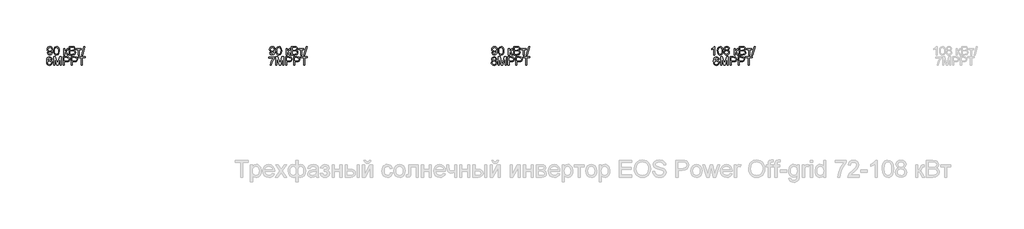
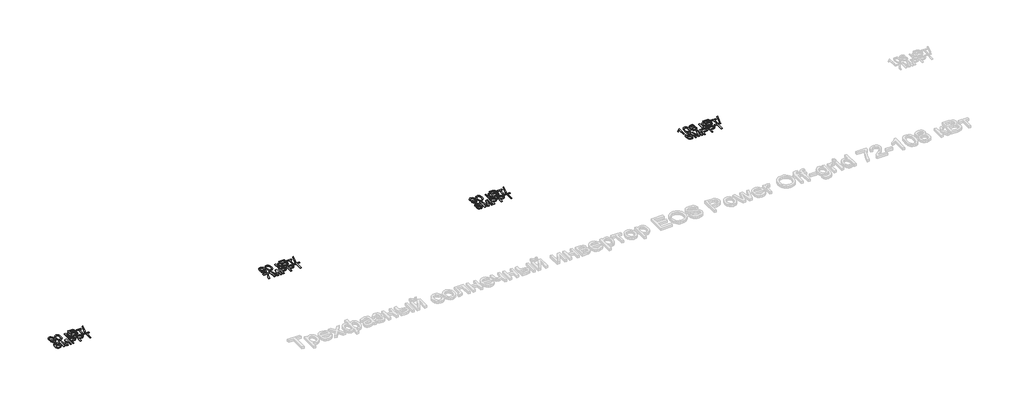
# One storey, part 18 of 26: 4 proxies.
"""IFC4 building model written with IfcOpenShell, lengths in millimetres."""

from ifc_helpers import new_model, si_unit, origin, origin_with_axes, place, context, project, spatial, polyline, outline, extrude, element, save

model = new_model("IFC4")

# Units and contexts
model_context = context("Model", 3, world=origin())
ifc_project = project(units=[si_unit("LENGTHUNIT", "METRE", prefix="MILLI")], contexts=[model_context])

# Site, building, storey
site = spatial("IfcSite", under=ifc_project)
building = spatial("IfcBuilding", under=site)
storey = spatial("IfcBuildingStorey", under=building, Name="Этаж 01", Elevation=0.0)

# Proxies
placement = place(None, origin())
element("IfcBuildingElementProxy", 1, Name="75 мм Arial", ObjectType="75 мм Arial", at=placement, inside=storey, context=model_context, shape_type="SweptSolid", body=[
    extrude(outline(polyline([(1822.7357766, -11396.0385039), (1832.1535557, -11394.8612815), (1836.3841986, -11403.8467992), (1844.4040261, -11406.6335053), (1852.0283804, -11404.8400806), (1857.1971225, -11400.0484176), (1860.2781342, -11391.8630432), (1861.6392976, -11380.936948), (1861.5841153, -11379.097538), (1854.0517314, -11386.2344487), (1843.7234444, -11388.9751696), (1835.1356991, -11387.3013065), (1827.9872921, -11382.2797173), (1823.1657387, -11374.5220057), (1821.5585542, -11364.6397756), (1823.2439136, -11354.4310502), (1828.2999918, -11346.4296168), (1835.8944557, -11341.2562763), (1845.1949724, -11339.5318294), (1858.6134682, -11343.4681668), (1867.8473062, -11354.6885676), (1871.0018943, -11375.7682059), (1867.8565033, -11398.641269), (1858.5031036, -11411.5999123), (1843.9625677, -11416.0512844), (1829.4864112, -11410.7997689), (1822.7357766, -11396.0385039)]), holes=[polyline([(1861.5841153, -11364.4190464), (1857.5190192, -11353.1250691), (1846.7216827, -11348.9496085), (1835.3909172, -11353.4469659), (1830.9763333, -11365.0996281), (1835.1517939, -11375.5382797), (1846.4641653, -11379.5573905), (1857.3258812, -11375.5382797), (1861.5841153, -11364.4190464)])]), origin_with_axes(), (0.0, 0.0, 1.0), 5.0),
    extrude(outline(polyline([(1879.242451, -11377.809951), (1882.0107631, -11356.1325045), (1890.2329256, -11343.6337137), (1903.9641211, -11339.5318294), (1914.9637928, -11341.9598506), (1922.560556, -11348.9588055), (1926.9751399, -11360.10563), (1928.6857912, -11377.809951), (1925.9450703, -11399.3954271), (1917.7504989, -11411.921809), (1903.9641211, -11416.0512844), (1894.17846, -11414.2578597), (1886.7472437, -11408.8775855), (1881.1186492, -11396.1350729), (1879.242451, -11377.809951)]), holes=[polyline([(1888.6602301, -11377.7915569), (1889.7638761, -11392.605705), (1893.0748141, -11401.1796548), (1903.9641211, -11406.6335053), (1914.8534282, -11401.1612607), (1918.1643661, -11392.5827124), (1919.2680121, -11377.7915569), (1915.000581, -11354.6701735), (1903.8537565, -11348.9496085), (1893.2219669, -11353.9895918), (1889.8006643, -11363.1682476), (1888.6602301, -11377.7915569)])]), origin_with_axes(), (0.0, 0.0, 1.0), 5.0),
    extrude(outline(polyline([(1968.7113523, -11359.54461), (1978.1291313, -11359.54461), (1978.1291313, -11383.0890576), (1984.4383076, -11381.3968005), (1989.6070496, -11371.537563), (1993.9020719, -11363.0302919), (1997.6912564, -11360.2619798), (2004.5798468, -11359.54461), (2006.3824686, -11359.54461), (2006.3824686, -11369.0175713), (2003.8440828, -11368.962389), (1999.2455579, -11369.9556704), (1996.0081963, -11376.154482), (1992.2098147, -11382.8591314), (1986.8847228, -11386.1424782), (1998.6569467, -11397.528426), (2008.7369133, -11414.874062), (1998.0315473, -11414.874062), (1988.1539157, -11397.896308), (1983.1875088, -11390.713412), (1978.1291313, -11388.9751696), (1978.1291313, -11414.874062), (1968.7113523, -11414.874062), (1968.7113523, -11359.54461)])), origin_with_axes(), (0.0, 0.0, 1.0), 5.0),
    extrude(outline(polyline([(2015.8002476, -11414.874062), (2015.8002476, -11339.5318294), (2044.5502256, -11339.5318294), (2058.6309089, -11341.7483184), (2066.945042, -11348.5633324), (2069.9524773, -11358.2018407), (2067.4232886, -11367.0034174), (2059.7805402, -11373.6712786), (2069.0603635, -11380.6978247), (2072.3069221, -11392.4148662), (2070.0904331, -11402.5408181), (2064.5997943, -11409.7513052), (2056.4052229, -11413.577278), (2044.3294964, -11414.874062), (2015.8002476, -11414.874062)]), holes=[polyline([(2025.2180267, -11370.1396114), (2042.41651, -11370.1396114), (2052.4596885, -11369.330271), (2058.5021502, -11365.8445891), (2060.5346983, -11359.7101569), (2058.640106, -11353.5665275), (2053.2138466, -11349.9336928), (2041.1105289, -11348.9496085), (2025.2180267, -11348.9496085), (2025.2180267, -11370.1396114)]), polyline([(2025.2180267, -11405.456283), (2044.5318315, -11405.456283), (2051.5215894, -11405.088401), (2057.4352925, -11403.0374588), (2061.3532357, -11398.8528011), (2062.889143, -11392.5068367), (2061.0865213, -11385.185985), (2055.2463946, -11380.8173863), (2043.6121265, -11379.5573905), (2025.2180267, -11379.5573905), (2025.2180267, -11405.456283)])]), origin_with_axes(), (0.0, 0.0, 1.0), 5.0),
    extrude(outline(polyline([(2079.3702564, -11359.54461), (2124.104707, -11359.54461), (2124.104707, -11368.962389), (2106.4463713, -11368.962389), (2106.4463713, -11414.874062), (2097.0285922, -11414.874062), (2097.0285922, -11368.962389), (2079.3702564, -11368.962389), (2079.3702564, -11359.54461)])), origin_with_axes(), (0.0, 0.0, 1.0), 5.0),
    extrude(outline(polyline([(2125.2819294, -11414.874062), (2146.4719323, -11339.5318294), (2154.9700064, -11339.5318294), (2133.7800035, -11414.874062), (2125.2819294, -11414.874062)])), origin_with_axes(), (0.0, 0.0, 1.0), 5.0),
    extrude(outline(polyline([(1865.7043936, -11451.0257233), (1856.2866145, -11452.2029457), (1852.7181592, -11444.3486651), (1843.281986, -11440.4307219), (1834.7839119, -11442.7115902), (1828.3551741, -11451.2740437), (1825.6788325, -11468.0586597), (1833.9837686, -11460.54467), (1844.2752674, -11458.0890576), (1852.9756766, -11459.7675193), (1860.2781342, -11464.8029041), (1865.2307455, -11472.4962363), (1866.881616, -11482.1485401), (1863.7730131, -11495.1439716), (1855.2197568, -11504.3410215), (1842.8773158, -11507.5323978), (1832.1926431, -11505.4170763), (1823.6830727, -11499.0711119), (1818.1165583, -11487.8691052), (1816.2610535, -11471.1856567), (1818.3211926, -11452.4282734), (1824.5016102, -11439.6029874), (1832.9399034, -11433.160454), (1843.8705972, -11431.0129428), (1858.7514239, -11436.3288376), (1865.7043936, -11451.0257233)]), holes=[polyline([(1825.6788325, -11482.0013873), (1827.8585334, -11490.1591706), (1833.6526748, -11496.0820707), (1842.1415518, -11498.1146187), (1853.242391, -11493.9023699), (1857.4638369, -11482.4612398), (1853.2975733, -11471.5075534), (1841.7552757, -11467.5068367), (1830.3601309, -11471.5075534), (1825.6788325, -11482.0013873)])]), origin_with_axes(), (0.0, 0.0, 1.0), 5.0),
    extrude(outline(polyline([(1878.6538398, -11506.3551754), (1878.6538398, -11431.0129428), (1894.8590417, -11431.0129428), (1910.2732973, -11484.1167088), (1913.3819002, -11495.208351), (1916.7480204, -11483.1970038), (1931.9047586, -11431.0129428), (1948.1099605, -11431.0129428), (1948.1099605, -11506.3551754), (1938.6921815, -11506.3551754), (1938.6921815, -11440.4307219), (1919.7646528, -11506.3551754), (1906.9991476, -11506.3551754), (1888.0716189, -11440.4307219), (1888.0716189, -11506.3551754), (1878.6538398, -11506.3551754)])), origin_with_axes(), (0.0, 0.0, 1.0), 5.0),
    extrude(outline(polyline([(1964.5910739, -11506.3551754), (1964.5910739, -11431.0129428), (1992.5133174, -11431.0129428), (2003.7705064, -11431.7303127), (2012.921571, -11435.2527828), (2018.8536682, -11442.5368463), (2021.0977484, -11452.809951), (2019.5825344, -11461.6897027), (2015.0368925, -11469.0887293), (2006.5365192, -11474.0827274), (1993.1571108, -11475.7473934), (1974.008853, -11475.7473934), (1974.008853, -11506.3551754), (1964.5910739, -11506.3551754)]), holes=[polyline([(1974.008853, -11466.3296143), (1993.7089338, -11466.3296143), (2007.5780851, -11462.8715236), (2011.6799693, -11453.1410448), (2009.2611452, -11445.3419465), (2002.9059837, -11441.0745154), (1993.4882046, -11440.4307219), (1974.008853, -11440.4307219), (1974.008853, -11466.3296143)])]), origin_with_axes(), (0.0, 0.0, 1.0), 5.0),
    extrude(outline(polyline([(2034.0471946, -11506.3551754), (2034.0471946, -11431.0129428), (2061.969438, -11431.0129428), (2073.2266271, -11431.7303127), (2082.3776917, -11435.2527828), (2088.3097889, -11442.5368463), (2090.5538691, -11452.809951), (2089.0386551, -11461.6897027), (2084.4930132, -11469.0887293), (2075.9926398, -11474.0827274), (2062.6132315, -11475.7473934), (2043.4649737, -11475.7473934), (2043.4649737, -11506.3551754), (2034.0471946, -11506.3551754)]), holes=[polyline([(2043.4649737, -11466.3296143), (2063.1650545, -11466.3296143), (2077.0342057, -11462.8715236), (2081.13609, -11453.1410448), (2078.7172659, -11445.3419465), (2072.3621044, -11441.0745154), (2062.9443253, -11440.4307219), (2043.4649737, -11440.4307219), (2043.4649737, -11466.3296143)])]), origin_with_axes(), (0.0, 0.0, 1.0), 5.0),
    extrude(outline(polyline([(2122.3388735, -11506.3551754), (2122.3388735, -11440.4307219), (2097.6172034, -11440.4307219), (2097.6172034, -11431.0129428), (2156.4783226, -11431.0129428), (2156.4783226, -11440.4307219), (2131.7566525, -11440.4307219), (2131.7566525, -11506.3551754), (2122.3388735, -11506.3551754)])), origin_with_axes(), (0.0, 0.0, 1.0), 5.0),
])
element("IfcBuildingElementProxy", 2, Name="75 мм Arial", ObjectType="75 мм Arial", at=placement, inside=storey, context=model_context, shape_type="SweptSolid", body=[
    extrude(outline(polyline([(3782.7357766, -11396.0385039), (3792.1535557, -11394.8612815), (3796.3841986, -11403.8467992), (3804.4040261, -11406.6335053), (3812.0283804, -11404.8400806), (3817.1971225, -11400.0484176), (3820.2781342, -11391.8630432), (3821.6392976, -11380.936948), (3821.5841153, -11379.097538), (3814.0517314, -11386.2344487), (3803.7234444, -11388.9751696), (3795.1356991, -11387.3013065), (3787.9872921, -11382.2797173), (3783.1657387, -11374.5220057), (3781.5585542, -11364.6397756), (3783.2439136, -11354.4310502), (3788.2999918, -11346.4296168), (3795.8944557, -11341.2562763), (3805.1949724, -11339.5318294), (3818.6134682, -11343.4681668), (3827.8473062, -11354.6885676), (3831.0018943, -11375.7682059), (3827.8565033, -11398.641269), (3818.5031036, -11411.5999123), (3803.9625677, -11416.0512844), (3789.4864112, -11410.7997689), (3782.7357766, -11396.0385039)]), holes=[polyline([(3821.5841153, -11364.4190464), (3817.5190192, -11353.1250691), (3806.7216827, -11348.9496085), (3795.3909172, -11353.4469659), (3790.9763333, -11365.0996281), (3795.1517939, -11375.5382797), (3806.4641653, -11379.5573905), (3817.3258812, -11375.5382797), (3821.5841153, -11364.4190464)])]), origin_with_axes(), (0.0, 0.0, 1.0), 5.0),
    extrude(outline(polyline([(3839.242451, -11377.809951), (3842.0107631, -11356.1325045), (3850.2329256, -11343.6337137), (3863.9641211, -11339.5318294), (3874.9637928, -11341.9598506), (3882.560556, -11348.9588055), (3886.9751399, -11360.10563), (3888.6857912, -11377.809951), (3885.9450703, -11399.3954271), (3877.7504989, -11411.921809), (3863.9641211, -11416.0512844), (3854.17846, -11414.2578597), (3846.7472437, -11408.8775855), (3841.1186492, -11396.1350729), (3839.242451, -11377.809951)]), holes=[polyline([(3848.6602301, -11377.7915569), (3849.7638761, -11392.605705), (3853.0748141, -11401.1796548), (3863.9641211, -11406.6335053), (3874.8534282, -11401.1612607), (3878.1643661, -11392.5827124), (3879.2680121, -11377.7915569), (3875.000581, -11354.6701735), (3863.8537565, -11348.9496085), (3853.2219669, -11353.9895918), (3849.8006643, -11363.1682476), (3848.6602301, -11377.7915569)])]), origin_with_axes(), (0.0, 0.0, 1.0), 5.0),
    extrude(outline(polyline([(3928.7113523, -11359.54461), (3938.1291313, -11359.54461), (3938.1291313, -11383.0890576), (3944.4383076, -11381.3968005), (3949.6070496, -11371.537563), (3953.9020719, -11363.0302919), (3957.6912564, -11360.2619798), (3964.5798468, -11359.54461), (3966.3824686, -11359.54461), (3966.3824686, -11369.0175713), (3963.8440828, -11368.962389), (3959.2455579, -11369.9556704), (3956.0081963, -11376.154482), (3952.2098147, -11382.8591314), (3946.8847228, -11386.1424782), (3958.6569467, -11397.528426), (3968.7369133, -11414.874062), (3958.0315473, -11414.874062), (3948.1539157, -11397.896308), (3943.1875088, -11390.713412), (3938.1291313, -11388.9751696), (3938.1291313, -11414.874062), (3928.7113523, -11414.874062), (3928.7113523, -11359.54461)])), origin_with_axes(), (0.0, 0.0, 1.0), 5.0),
    extrude(outline(polyline([(3975.8002476, -11414.874062), (3975.8002476, -11339.5318294), (4004.5502256, -11339.5318294), (4018.6309089, -11341.7483184), (4026.945042, -11348.5633324), (4029.9524773, -11358.2018407), (4027.4232886, -11367.0034174), (4019.7805402, -11373.6712786), (4029.0603635, -11380.6978247), (4032.3069221, -11392.4148662), (4030.0904331, -11402.5408181), (4024.5997943, -11409.7513052), (4016.4052229, -11413.577278), (4004.3294964, -11414.874062), (3975.8002476, -11414.874062)]), holes=[polyline([(3985.2180267, -11370.1396114), (4002.41651, -11370.1396114), (4012.4596885, -11369.330271), (4018.5021502, -11365.8445891), (4020.5346983, -11359.7101569), (4018.640106, -11353.5665275), (4013.2138466, -11349.9336928), (4001.1105289, -11348.9496085), (3985.2180267, -11348.9496085), (3985.2180267, -11370.1396114)]), polyline([(3985.2180267, -11405.456283), (4004.5318315, -11405.456283), (4011.5215894, -11405.088401), (4017.4352925, -11403.0374588), (4021.3532357, -11398.8528011), (4022.889143, -11392.5068367), (4021.0865213, -11385.185985), (4015.2463946, -11380.8173863), (4003.6121265, -11379.5573905), (3985.2180267, -11379.5573905), (3985.2180267, -11405.456283)])]), origin_with_axes(), (0.0, 0.0, 1.0), 5.0),
    extrude(outline(polyline([(4039.3702564, -11359.54461), (4084.104707, -11359.54461), (4084.104707, -11368.962389), (4066.4463713, -11368.962389), (4066.4463713, -11414.874062), (4057.0285922, -11414.874062), (4057.0285922, -11368.962389), (4039.3702564, -11368.962389), (4039.3702564, -11359.54461)])), origin_with_axes(), (0.0, 0.0, 1.0), 5.0),
    extrude(outline(polyline([(4085.2819294, -11414.874062), (4106.4719323, -11339.5318294), (4114.9700064, -11339.5318294), (4093.7800035, -11414.874062), (4085.2819294, -11414.874062)])), origin_with_axes(), (0.0, 0.0, 1.0), 5.0),
    extrude(outline(polyline([(3777.4382759, -11441.6079443), (3777.4382759, -11432.1901652), (3826.881616, -11432.1901652), (3826.881616, -11439.8053225), (3812.8561149, -11460.0664234), (3802.1231577, -11485.8825424), (3798.6282788, -11506.3551754), (3789.2104997, -11506.3551754), (3792.953699, -11485.1099902), (3803.2268037, -11461.096493), (3817.4638369, -11441.6079443), (3777.4382759, -11441.6079443)])), origin_with_axes(), (0.0, 0.0, 1.0), 5.0),
    extrude(outline(polyline([(3838.6538398, -11506.3551754), (3838.6538398, -11431.0129428), (3854.8590417, -11431.0129428), (3870.2732973, -11484.1167088), (3873.3819002, -11495.208351), (3876.7480204, -11483.1970038), (3891.9047586, -11431.0129428), (3908.1099605, -11431.0129428), (3908.1099605, -11506.3551754), (3898.6921815, -11506.3551754), (3898.6921815, -11440.4307219), (3879.7646528, -11506.3551754), (3866.9991476, -11506.3551754), (3848.0716189, -11440.4307219), (3848.0716189, -11506.3551754), (3838.6538398, -11506.3551754)])), origin_with_axes(), (0.0, 0.0, 1.0), 5.0),
    extrude(outline(polyline([(3924.5910739, -11506.3551754), (3924.5910739, -11431.0129428), (3952.5133174, -11431.0129428), (3963.7705064, -11431.7303127), (3972.921571, -11435.2527828), (3978.8536682, -11442.5368463), (3981.0977484, -11452.809951), (3979.5825344, -11461.6897027), (3975.0368925, -11469.0887293), (3966.5365192, -11474.0827274), (3953.1571108, -11475.7473934), (3934.008853, -11475.7473934), (3934.008853, -11506.3551754), (3924.5910739, -11506.3551754)]), holes=[polyline([(3934.008853, -11466.3296143), (3953.7089338, -11466.3296143), (3967.5780851, -11462.8715236), (3971.6799693, -11453.1410448), (3969.2611452, -11445.3419465), (3962.9059837, -11441.0745154), (3953.4882046, -11440.4307219), (3934.008853, -11440.4307219), (3934.008853, -11466.3296143)])]), origin_with_axes(), (0.0, 0.0, 1.0), 5.0),
    extrude(outline(polyline([(3994.0471946, -11506.3551754), (3994.0471946, -11431.0129428), (4021.969438, -11431.0129428), (4033.2266271, -11431.7303127), (4042.3776917, -11435.2527828), (4048.3097889, -11442.5368463), (4050.5538691, -11452.809951), (4049.0386551, -11461.6897027), (4044.4930132, -11469.0887293), (4035.9926398, -11474.0827274), (4022.6132315, -11475.7473934), (4003.4649737, -11475.7473934), (4003.4649737, -11506.3551754), (3994.0471946, -11506.3551754)]), holes=[polyline([(4003.4649737, -11466.3296143), (4023.1650545, -11466.3296143), (4037.0342057, -11462.8715236), (4041.13609, -11453.1410448), (4038.7172659, -11445.3419465), (4032.3621044, -11441.0745154), (4022.9443253, -11440.4307219), (4003.4649737, -11440.4307219), (4003.4649737, -11466.3296143)])]), origin_with_axes(), (0.0, 0.0, 1.0), 5.0),
    extrude(outline(polyline([(4082.3388735, -11506.3551754), (4082.3388735, -11440.4307219), (4057.6172034, -11440.4307219), (4057.6172034, -11431.0129428), (4116.4783226, -11431.0129428), (4116.4783226, -11440.4307219), (4091.7566525, -11440.4307219), (4091.7566525, -11506.3551754), (4082.3388735, -11506.3551754)])), origin_with_axes(), (0.0, 0.0, 1.0), 5.0),
])
element("IfcBuildingElementProxy", 3, Name="75 мм Arial", ObjectType="75 мм Arial", at=placement, inside=storey, context=model_context, shape_type="SweptSolid", body=[
    extrude(outline(polyline([(5742.7357766, -11396.0385039), (5752.1535557, -11394.8612815), (5756.3841986, -11403.8467992), (5764.4040261, -11406.6335053), (5772.0283804, -11404.8400806), (5777.1971225, -11400.0484176), (5780.2781342, -11391.8630432), (5781.6392976, -11380.936948), (5781.5841153, -11379.097538), (5774.0517314, -11386.2344487), (5763.7234444, -11388.9751696), (5755.1356991, -11387.3013065), (5747.9872921, -11382.2797173), (5743.1657387, -11374.5220057), (5741.5585542, -11364.6397756), (5743.2439136, -11354.4310502), (5748.2999918, -11346.4296168), (5755.8944557, -11341.2562763), (5765.1949724, -11339.5318294), (5778.6134682, -11343.4681668), (5787.8473062, -11354.6885676), (5791.0018943, -11375.7682059), (5787.8565033, -11398.641269), (5778.5031036, -11411.5999123), (5763.9625677, -11416.0512844), (5749.4864112, -11410.7997689), (5742.7357766, -11396.0385039)]), holes=[polyline([(5781.5841153, -11364.4190464), (5777.5190192, -11353.1250691), (5766.7216827, -11348.9496085), (5755.3909172, -11353.4469659), (5750.9763333, -11365.0996281), (5755.1517939, -11375.5382797), (5766.4641653, -11379.5573905), (5777.3258812, -11375.5382797), (5781.5841153, -11364.4190464)])]), origin_with_axes(), (0.0, 0.0, 1.0), 5.0),
    extrude(outline(polyline([(5799.242451, -11377.809951), (5802.0107631, -11356.1325045), (5810.2329256, -11343.6337137), (5823.9641211, -11339.5318294), (5834.9637928, -11341.9598506), (5842.560556, -11348.9588055), (5846.9751399, -11360.10563), (5848.6857912, -11377.809951), (5845.9450703, -11399.3954271), (5837.7504989, -11411.921809), (5823.9641211, -11416.0512844), (5814.17846, -11414.2578597), (5806.7472437, -11408.8775855), (5801.1186492, -11396.1350729), (5799.242451, -11377.809951)]), holes=[polyline([(5808.6602301, -11377.7915569), (5809.7638761, -11392.605705), (5813.0748141, -11401.1796548), (5823.9641211, -11406.6335053), (5834.8534282, -11401.1612607), (5838.1643661, -11392.5827124), (5839.2680121, -11377.7915569), (5835.000581, -11354.6701735), (5823.8537565, -11348.9496085), (5813.2219669, -11353.9895918), (5809.8006643, -11363.1682476), (5808.6602301, -11377.7915569)])]), origin_with_axes(), (0.0, 0.0, 1.0), 5.0),
    extrude(outline(polyline([(5888.7113523, -11359.54461), (5898.1291313, -11359.54461), (5898.1291313, -11383.0890576), (5904.4383076, -11381.3968005), (5909.6070496, -11371.537563), (5913.9020719, -11363.0302919), (5917.6912564, -11360.2619798), (5924.5798468, -11359.54461), (5926.3824686, -11359.54461), (5926.3824686, -11369.0175713), (5923.8440828, -11368.962389), (5919.2455579, -11369.9556704), (5916.0081963, -11376.154482), (5912.2098147, -11382.8591314), (5906.8847228, -11386.1424782), (5918.6569467, -11397.528426), (5928.7369133, -11414.874062), (5918.0315473, -11414.874062), (5908.1539157, -11397.896308), (5903.1875088, -11390.713412), (5898.1291313, -11388.9751696), (5898.1291313, -11414.874062), (5888.7113523, -11414.874062), (5888.7113523, -11359.54461)])), origin_with_axes(), (0.0, 0.0, 1.0), 5.0),
    extrude(outline(polyline([(5935.8002476, -11414.874062), (5935.8002476, -11339.5318294), (5964.5502256, -11339.5318294), (5978.6309089, -11341.7483184), (5986.945042, -11348.5633324), (5989.9524773, -11358.2018407), (5987.4232886, -11367.0034174), (5979.7805402, -11373.6712786), (5989.0603635, -11380.6978247), (5992.3069221, -11392.4148662), (5990.0904331, -11402.5408181), (5984.5997943, -11409.7513052), (5976.4052229, -11413.577278), (5964.3294964, -11414.874062), (5935.8002476, -11414.874062)]), holes=[polyline([(5945.2180267, -11370.1396114), (5962.41651, -11370.1396114), (5972.4596885, -11369.330271), (5978.5021502, -11365.8445891), (5980.5346983, -11359.7101569), (5978.640106, -11353.5665275), (5973.2138466, -11349.9336928), (5961.1105289, -11348.9496085), (5945.2180267, -11348.9496085), (5945.2180267, -11370.1396114)]), polyline([(5945.2180267, -11405.456283), (5964.5318315, -11405.456283), (5971.5215894, -11405.088401), (5977.4352925, -11403.0374588), (5981.3532357, -11398.8528011), (5982.889143, -11392.5068367), (5981.0865213, -11385.185985), (5975.2463946, -11380.8173863), (5963.6121265, -11379.5573905), (5945.2180267, -11379.5573905), (5945.2180267, -11405.456283)])]), origin_with_axes(), (0.0, 0.0, 1.0), 5.0),
    extrude(outline(polyline([(5999.3702564, -11359.54461), (6044.104707, -11359.54461), (6044.104707, -11368.962389), (6026.4463713, -11368.962389), (6026.4463713, -11414.874062), (6017.0285922, -11414.874062), (6017.0285922, -11368.962389), (5999.3702564, -11368.962389), (5999.3702564, -11359.54461)])), origin_with_axes(), (0.0, 0.0, 1.0), 5.0),
    extrude(outline(polyline([(6045.2819294, -11414.874062), (6066.4719323, -11339.5318294), (6074.9700064, -11339.5318294), (6053.7800035, -11414.874062), (6045.2819294, -11414.874062)])), origin_with_axes(), (0.0, 0.0, 1.0), 5.0),
    extrude(outline(polyline([(5751.1602743, -11464.8580864), (5742.5794267, -11459.0087626), (5739.7927206, -11449.9036833), (5741.3102338, -11442.5414448), (5745.8627735, -11436.4575963), (5752.9399034, -11432.3741062), (5762.0311872, -11431.0129428), (5771.1776533, -11432.4062959), (5778.3467537, -11436.586355), (5782.9820669, -11442.7667725), (5784.5271712, -11450.1612007), (5781.7772533, -11459.0363538), (5773.4355291, -11464.8580864), (5783.4511164, -11472.2433174), (5786.881616, -11484.4294085), (5785.1801618, -11493.4333203), (5780.0757991, -11500.8737337), (5772.1939273, -11505.8677318), (5762.1599459, -11507.5323978), (5752.1259645, -11505.860834), (5744.2440928, -11500.8461425), (5739.1397301, -11493.334452), (5737.4382759, -11484.1718911), (5741.0067312, -11471.7006915), (5751.1602743, -11464.8580864)]), holes=[polyline([(5749.2104997, -11450.1795948), (5752.5490288, -11457.5740229), (5762.2703105, -11460.4435024), (5771.7984542, -11457.592417), (5775.1093922, -11450.602659), (5771.6880896, -11443.3645808), (5762.1599459, -11440.4307219), (5752.6042111, -11443.3002014), (5749.2104997, -11450.1795948)]), polyline([(5746.8560549, -11483.8407973), (5748.4287505, -11490.9317228), (5753.9929656, -11496.2384205), (5762.2335223, -11498.1146187), (5773.4539232, -11494.1690843), (5777.4638369, -11484.1351029), (5773.3251645, -11473.9079834), (5761.9208226, -11469.8612815), (5750.8383775, -11473.8528011), (5746.8560549, -11483.8407973)])]), origin_with_axes(), (0.0, 0.0, 1.0), 5.0),
    extrude(outline(polyline([(5798.6538398, -11506.3551754), (5798.6538398, -11431.0129428), (5814.8590417, -11431.0129428), (5830.2732973, -11484.1167088), (5833.3819002, -11495.208351), (5836.7480204, -11483.1970038), (5851.9047586, -11431.0129428), (5868.1099605, -11431.0129428), (5868.1099605, -11506.3551754), (5858.6921815, -11506.3551754), (5858.6921815, -11440.4307219), (5839.7646528, -11506.3551754), (5826.9991476, -11506.3551754), (5808.0716189, -11440.4307219), (5808.0716189, -11506.3551754), (5798.6538398, -11506.3551754)])), origin_with_axes(), (0.0, 0.0, 1.0), 5.0),
    extrude(outline(polyline([(5884.5910739, -11506.3551754), (5884.5910739, -11431.0129428), (5912.5133174, -11431.0129428), (5923.7705064, -11431.7303127), (5932.921571, -11435.2527828), (5938.8536682, -11442.5368463), (5941.0977484, -11452.809951), (5939.5825344, -11461.6897027), (5935.0368925, -11469.0887293), (5926.5365192, -11474.0827274), (5913.1571108, -11475.7473934), (5894.008853, -11475.7473934), (5894.008853, -11506.3551754), (5884.5910739, -11506.3551754)]), holes=[polyline([(5894.008853, -11466.3296143), (5913.7089338, -11466.3296143), (5927.5780851, -11462.8715236), (5931.6799693, -11453.1410448), (5929.2611452, -11445.3419465), (5922.9059837, -11441.0745154), (5913.4882046, -11440.4307219), (5894.008853, -11440.4307219), (5894.008853, -11466.3296143)])]), origin_with_axes(), (0.0, 0.0, 1.0), 5.0),
    extrude(outline(polyline([(5954.0471946, -11506.3551754), (5954.0471946, -11431.0129428), (5981.969438, -11431.0129428), (5993.2266271, -11431.7303127), (6002.3776917, -11435.2527828), (6008.3097889, -11442.5368463), (6010.5538691, -11452.809951), (6009.0386551, -11461.6897027), (6004.4930132, -11469.0887293), (5995.9926398, -11474.0827274), (5982.6132315, -11475.7473934), (5963.4649737, -11475.7473934), (5963.4649737, -11506.3551754), (5954.0471946, -11506.3551754)]), holes=[polyline([(5963.4649737, -11466.3296143), (5983.1650545, -11466.3296143), (5997.0342057, -11462.8715236), (6001.13609, -11453.1410448), (5998.7172659, -11445.3419465), (5992.3621044, -11441.0745154), (5982.9443253, -11440.4307219), (5963.4649737, -11440.4307219), (5963.4649737, -11466.3296143)])]), origin_with_axes(), (0.0, 0.0, 1.0), 5.0),
    extrude(outline(polyline([(6042.3388735, -11506.3551754), (6042.3388735, -11440.4307219), (6017.6172034, -11440.4307219), (6017.6172034, -11431.0129428), (6076.4783226, -11431.0129428), (6076.4783226, -11440.4307219), (6051.7566525, -11440.4307219), (6051.7566525, -11506.3551754), (6042.3388735, -11506.3551754)])), origin_with_axes(), (0.0, 0.0, 1.0), 5.0),
])
element("IfcBuildingElementProxy", 4, Name="75 мм Arial", ObjectType="75 мм Arial", at=placement, inside=storey, context=model_context, shape_type="SweptSolid", body=[
    extrude(outline(polyline([(7708.0332773, -11414.874062), (7698.6154982, -11414.874062), (7698.6154982, -11356.1600956), (7689.6943599, -11362.5152571), (7679.7799401, -11367.2701319), (7679.7799401, -11358.3673876), (7693.584712, -11349.5566138), (7701.9632244, -11339.5318294), (7708.0332773, -11339.5318294), (7708.0332773, -11414.874062)])), origin_with_axes(), (0.0, 0.0, 1.0), 5.0),
    extrude(outline(polyline([(7730.4005026, -11377.809951), (7733.1688146, -11356.1325045), (7741.3909772, -11343.6337137), (7755.1221727, -11339.5318294), (7766.1218443, -11341.9598506), (7773.7186076, -11348.9588055), (7778.1331915, -11360.10563), (7779.8438428, -11377.809951), (7777.1031219, -11399.3954271), (7768.9085505, -11411.921809), (7755.1221727, -11416.0512844), (7745.3365116, -11414.2578597), (7737.9052953, -11408.8775855), (7732.2767008, -11396.1350729), (7730.4005026, -11377.809951)]), holes=[polyline([(7739.8182817, -11377.7915569), (7740.9219277, -11392.605705), (7744.2328656, -11401.1796548), (7755.1221727, -11406.6335053), (7766.0114798, -11401.1612607), (7769.3224177, -11392.5827124), (7770.4260637, -11377.7915569), (7766.1586325, -11354.6701735), (7755.0118081, -11348.9496085), (7744.3800184, -11353.9895918), (7740.9587159, -11363.1682476), (7739.8182817, -11377.7915569)])]), origin_with_axes(), (0.0, 0.0, 1.0), 5.0),
    extrude(outline(polyline([(7801.8063979, -11373.376973), (7793.2255503, -11367.5276493), (7790.4388442, -11358.4225699), (7791.9563575, -11351.0603314), (7796.5088972, -11344.9764829), (7803.586027, -11340.8929928), (7812.6773108, -11339.5318294), (7821.8237769, -11340.9251825), (7828.9928773, -11345.1052416), (7833.6281905, -11351.2856592), (7835.1732948, -11358.6800873), (7832.4233769, -11367.5552404), (7824.0816527, -11373.376973), (7834.09724, -11380.762204), (7837.5277396, -11392.9482951), (7835.8262854, -11401.952207), (7830.7219227, -11409.3926203), (7822.840051, -11414.3866184), (7812.8060695, -11416.0512844), (7802.7720881, -11414.3797206), (7794.8902164, -11409.3650292), (7789.7858537, -11401.8533387), (7788.0843995, -11392.6907777), (7791.6528548, -11380.2195781), (7801.8063979, -11373.376973)]), holes=[polyline([(7799.8566233, -11358.6984814), (7803.1951524, -11366.0929095), (7812.9164341, -11368.962389), (7822.4445778, -11366.1113036), (7825.7555158, -11359.1215457), (7822.3342132, -11351.8834674), (7812.8060695, -11348.9496085), (7803.2503347, -11351.8190881), (7799.8566233, -11358.6984814)]), polyline([(7797.5021785, -11392.3596839), (7799.0748741, -11399.4506094), (7804.6390892, -11404.7573072), (7812.8796459, -11406.6335053), (7824.1000468, -11402.6879709), (7828.1099605, -11392.6539895), (7823.9712881, -11382.4268701), (7812.5669462, -11378.3801681), (7801.4845011, -11382.3716878), (7797.5021785, -11392.3596839)])]), origin_with_axes(), (0.0, 0.0, 1.0), 5.0),
    extrude(outline(polyline([(7877.5533007, -11359.54461), (7886.9710798, -11359.54461), (7886.9710798, -11383.0890576), (7893.280256, -11381.3968005), (7898.448998, -11371.537563), (7902.7440203, -11363.0302919), (7906.5332049, -11360.2619798), (7913.4217952, -11359.54461), (7915.224417, -11359.54461), (7915.224417, -11369.0175713), (7912.6860312, -11368.962389), (7908.0875063, -11369.9556704), (7904.8501447, -11376.154482), (7901.0517631, -11382.8591314), (7895.7266713, -11386.1424782), (7907.4988951, -11397.528426), (7917.5788618, -11414.874062), (7906.8734957, -11414.874062), (7896.9958641, -11397.896308), (7892.0294572, -11390.713412), (7886.9710798, -11388.9751696), (7886.9710798, -11414.874062), (7877.5533007, -11414.874062), (7877.5533007, -11359.54461)])), origin_with_axes(), (0.0, 0.0, 1.0), 5.0),
    extrude(outline(polyline([(7924.6421961, -11414.874062), (7924.6421961, -11339.5318294), (7953.392174, -11339.5318294), (7967.4728574, -11341.7483184), (7975.7869905, -11348.5633324), (7978.7944258, -11358.2018407), (7976.265237, -11367.0034174), (7968.6224886, -11373.6712786), (7977.9023119, -11380.6978247), (7981.1488705, -11392.4148662), (7978.9323815, -11402.5408181), (7973.4417427, -11409.7513052), (7965.2471713, -11413.577278), (7953.1714448, -11414.874062), (7924.6421961, -11414.874062)]), holes=[polyline([(7934.0599751, -11370.1396114), (7951.2584584, -11370.1396114), (7961.3016369, -11369.330271), (7967.3440987, -11365.8445891), (7969.3766467, -11359.7101569), (7967.4820544, -11353.5665275), (7962.055795, -11349.9336928), (7949.9524773, -11348.9496085), (7934.0599751, -11348.9496085), (7934.0599751, -11370.1396114)]), polyline([(7934.0599751, -11405.456283), (7953.3737799, -11405.456283), (7960.3635378, -11405.088401), (7966.2772409, -11403.0374588), (7970.1951841, -11398.8528011), (7971.7310915, -11392.5068367), (7969.9284697, -11385.185985), (7964.088343, -11380.8173863), (7952.4540749, -11379.5573905), (7934.0599751, -11379.5573905), (7934.0599751, -11405.456283)])]), origin_with_axes(), (0.0, 0.0, 1.0), 5.0),
    extrude(outline(polyline([(7988.2122048, -11359.54461), (8032.9466555, -11359.54461), (8032.9466555, -11368.962389), (8015.2883197, -11368.962389), (8015.2883197, -11414.874062), (8005.8705406, -11414.874062), (8005.8705406, -11368.962389), (7988.2122048, -11368.962389), (7988.2122048, -11359.54461)])), origin_with_axes(), (0.0, 0.0, 1.0), 5.0),
    extrude(outline(polyline([(8034.1238778, -11414.874062), (8055.3138808, -11339.5318294), (8063.8119548, -11339.5318294), (8042.6219519, -11414.874062), (8034.1238778, -11414.874062)])), origin_with_axes(), (0.0, 0.0, 1.0), 5.0),
    extrude(outline(polyline([(7745.7043936, -11451.0257233), (7736.2866145, -11452.2029457), (7732.7181592, -11444.3486651), (7723.281986, -11440.4307219), (7714.7839119, -11442.7115902), (7708.3551741, -11451.2740437), (7705.6788325, -11468.0586597), (7713.9837686, -11460.54467), (7724.2752674, -11458.0890576), (7732.9756766, -11459.7675193), (7740.2781342, -11464.8029041), (7745.2307455, -11472.4962363), (7746.881616, -11482.1485401), (7743.7730131, -11495.1439716), (7735.2197568, -11504.3410215), (7722.8773158, -11507.5323978), (7712.1926431, -11505.4170763), (7703.6830727, -11499.0711119), (7698.1165583, -11487.8691052), (7696.2610535, -11471.1856567), (7698.3211926, -11452.4282734), (7704.5016102, -11439.6029874), (7712.9399034, -11433.160454), (7723.8705972, -11431.0129428), (7738.7514239, -11436.3288376), (7745.7043936, -11451.0257233)]), holes=[polyline([(7705.6788325, -11482.0013873), (7707.8585334, -11490.1591706), (7713.6526748, -11496.0820707), (7722.1415518, -11498.1146187), (7733.242391, -11493.9023699), (7737.4638369, -11482.4612398), (7733.2975733, -11471.5075534), (7721.7552757, -11467.5068367), (7710.3601309, -11471.5075534), (7705.6788325, -11482.0013873)])]), origin_with_axes(), (0.0, 0.0, 1.0), 5.0),
    extrude(outline(polyline([(7758.6538398, -11506.3551754), (7758.6538398, -11431.0129428), (7774.8590417, -11431.0129428), (7790.2732973, -11484.1167088), (7793.3819002, -11495.208351), (7796.7480204, -11483.1970038), (7811.9047586, -11431.0129428), (7828.1099605, -11431.0129428), (7828.1099605, -11506.3551754), (7818.6921815, -11506.3551754), (7818.6921815, -11440.4307219), (7799.7646528, -11506.3551754), (7786.9991476, -11506.3551754), (7768.0716189, -11440.4307219), (7768.0716189, -11506.3551754), (7758.6538398, -11506.3551754)])), origin_with_axes(), (0.0, 0.0, 1.0), 5.0),
    extrude(outline(polyline([(7844.5910739, -11506.3551754), (7844.5910739, -11431.0129428), (7872.5133174, -11431.0129428), (7883.7705064, -11431.7303127), (7892.921571, -11435.2527828), (7898.8536682, -11442.5368463), (7901.0977484, -11452.809951), (7899.5825344, -11461.6897027), (7895.0368925, -11469.0887293), (7886.5365192, -11474.0827274), (7873.1571108, -11475.7473934), (7854.008853, -11475.7473934), (7854.008853, -11506.3551754), (7844.5910739, -11506.3551754)]), holes=[polyline([(7854.008853, -11466.3296143), (7873.7089338, -11466.3296143), (7887.5780851, -11462.8715236), (7891.6799693, -11453.1410448), (7889.2611452, -11445.3419465), (7882.9059837, -11441.0745154), (7873.4882046, -11440.4307219), (7854.008853, -11440.4307219), (7854.008853, -11466.3296143)])]), origin_with_axes(), (0.0, 0.0, 1.0), 5.0),
    extrude(outline(polyline([(7914.0471946, -11506.3551754), (7914.0471946, -11431.0129428), (7941.969438, -11431.0129428), (7953.2266271, -11431.7303127), (7962.3776917, -11435.2527828), (7968.3097889, -11442.5368463), (7970.5538691, -11452.809951), (7969.0386551, -11461.6897027), (7964.4930132, -11469.0887293), (7955.9926398, -11474.0827274), (7942.6132315, -11475.7473934), (7923.4649737, -11475.7473934), (7923.4649737, -11506.3551754), (7914.0471946, -11506.3551754)]), holes=[polyline([(7923.4649737, -11466.3296143), (7943.1650545, -11466.3296143), (7957.0342057, -11462.8715236), (7961.13609, -11453.1410448), (7958.7172659, -11445.3419465), (7952.3621044, -11441.0745154), (7942.9443253, -11440.4307219), (7923.4649737, -11440.4307219), (7923.4649737, -11466.3296143)])]), origin_with_axes(), (0.0, 0.0, 1.0), 5.0),
    extrude(outline(polyline([(8002.3388735, -11506.3551754), (8002.3388735, -11440.4307219), (7977.6172034, -11440.4307219), (7977.6172034, -11431.0129428), (8036.4783226, -11431.0129428), (8036.4783226, -11440.4307219), (8011.7566525, -11440.4307219), (8011.7566525, -11506.3551754), (8002.3388735, -11506.3551754)])), origin_with_axes(), (0.0, 0.0, 1.0), 5.0),
])

save(model, "model.ifc")
